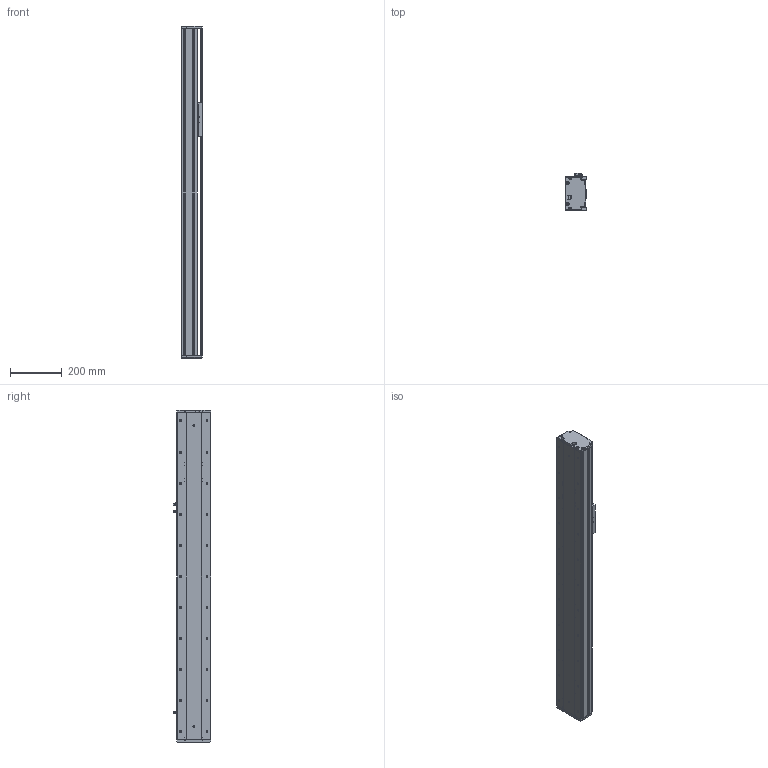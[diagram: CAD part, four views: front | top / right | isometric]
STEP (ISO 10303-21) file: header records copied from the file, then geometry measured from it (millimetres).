
FILE_DESCRIPTION (( 'STEP AP214' ), '1' );
FILE_NAME ('KSD130S-P2010-S800-M-CM.STEP', '2019-09-10T06:56:51', ( '微软用户' ), ( '微软中国' ), 'SwSTEP 2.0', 'SolidWorks 2014', '' );
FILE_SCHEMA (( 'AUTOMOTIVE_DESIGN' ));
Length unit declared in the file: millimetre
Products named in the file (8): 130宽马达安装板半封闭-内装; U倰嫖萇EEㄜSX672; 覜茼え100遵圉猾敕; 130宽盖板半封闭丝杠内装-800行程; 130宽滚珠丝杆安装板半封闭-内装-20丝杆; 130宽端盖半封闭-内装; 130宽底板半封闭丝杠内装-800行程; KSD130S-P2010-S800-M-CM
Assembly tree (9 placements, depth 2):
  KSD130S-P2010-S800-M-CM
    130宽底板半封闭丝杠内装-800行程
    130宽端盖半封闭-内装
    130宽滚珠丝杆安装板半封闭-内装-20丝杆
    130宽盖板半封闭丝杠内装-800行程
    覜茼え100遵圉猾敕
    U倰嫖萇EEㄜSX672  x3
    130宽马达安装板半封闭-内装
Bounding box: 80 x 143.7 x 1285 mm (x, y, z)
Volume: 3834716.7 mm3; surface area: 1175551.4 mm2
Topology: 9 solids, 9 shells, 1135 faces, 3324 edges, 2108 vertices
Faces by surface type: cylinder 518, plane 455, cone 162
Entity records: 37318 total; most frequent: CARTESIAN_POINT 7325, DIRECTION 5406, ORIENTED_EDGE 5320, EDGE_CURVE 2660, AXIS2_PLACEMENT_3D 1973, VERTEX_POINT 1732, LINE 1460, VECTOR 1460
